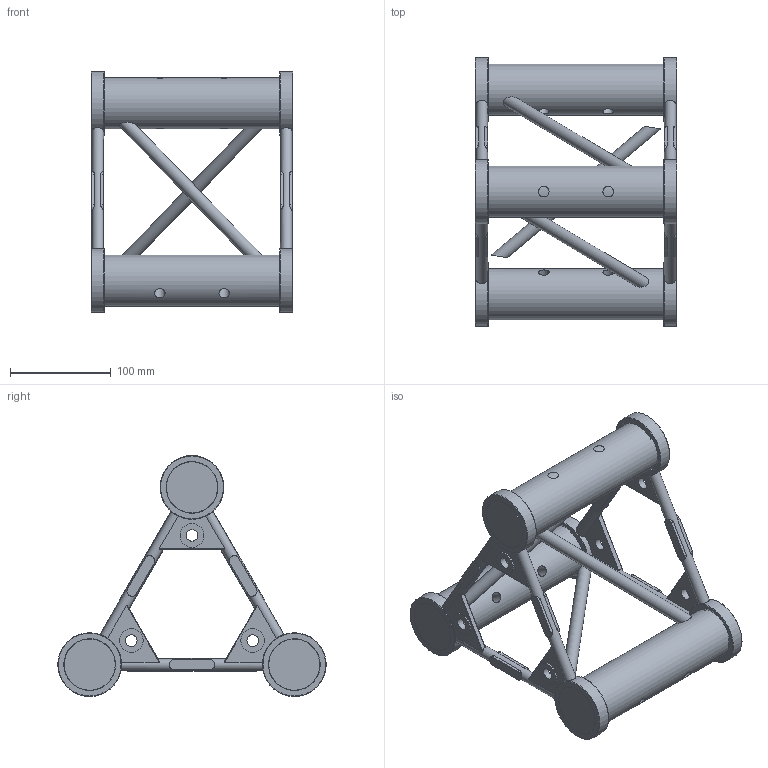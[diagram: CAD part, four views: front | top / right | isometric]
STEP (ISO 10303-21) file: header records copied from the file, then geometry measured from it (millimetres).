
FILE_DESCRIPTION(/* description */ (''),/* implementation_level */ '2;1');
FILE_NAME(/* name */ 'C:\Users\stephan\Desktop\A03\112040010.stp',/* time_stamp */ '2016-01-20T13:32:19+01:00',/* author */ ('Stephan'),/* organization */ (''),/* preprocessor_version */ 'ST-DEVELOPER v15.6',/* originating_system */ 'Autodesk Inventor 2015',/* authorisation */ '');
FILE_SCHEMA (('AUTOMOTIVE_DESIGN { 1 0 10303 214 3 1 1 }'));
Length unit declared in the file: millimetre
Products named in the file (1): 160025332
Bounding box: 200 x 266.3 x 239.1 mm (x, y, z)
Volume: 1498620 mm3; surface area: 228316.4 mm2
Topology: 10 solids, 10 shells, 242 faces, 603 edges, 395 vertices
Faces by surface type: plane 112, cylinder 106, cone 12, torus 12
Full cylindrical faces by diameter (mm): 10.5 x6, 11.5 x12, 12.7 x3, 23.5 x6, 50.8 x3, 51.3 x6, 63.3 x6
Entity records: 8404 total; most frequent: CARTESIAN_POINT 2763, DIRECTION 1046, ORIENTED_EDGE 1044, EDGE_CURVE 518, AXIS2_PLACEMENT_3D 413, VERTEX_POINT 370, EDGE_LOOP 356, STYLED_ITEM 242
